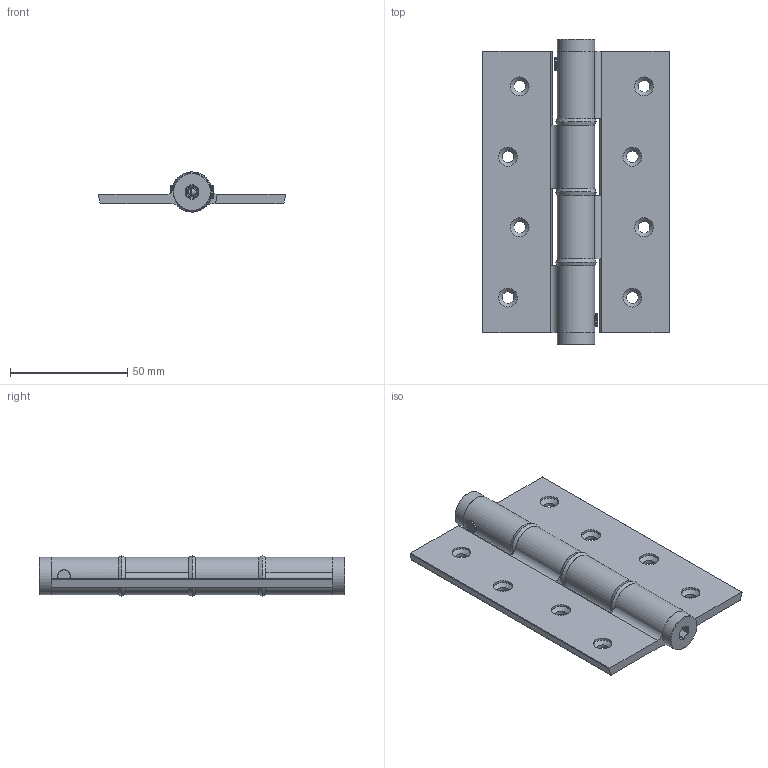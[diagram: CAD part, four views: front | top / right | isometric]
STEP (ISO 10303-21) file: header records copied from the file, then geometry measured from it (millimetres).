
FILE_DESCRIPTION(/* description */ ('Unknown'),/* implementation_level */ '2;1');
FILE_NAME(/* name */ '158.5314.01-03',/* time_stamp */ '2018-12-20T16:36:56+01:00',/* author */ ('Unknown'),/* organization */ ('Unknown'),/* preprocessor_version */ 'ST-DEVELOPER v16.7',/* originating_system */ 'DEX',/* authorisation */ $);
FILE_SCHEMA (('AUTOMOTIVE_DESIGN {1 0 10303 214 3 1 1}'));
Length unit declared in the file: millimetre
Products named in the file (5): 717.010.0.0 Conjunt Frontissa SA 120 ; 053.029.0.0 55303 Pala SA 120; 059.010.0.2 76305 Volandera nylon 16x12x3; 057.028.0.0 55719 Tap Frontissa -Foradat-; 057.020.0.2 Passador Frontisses 3 x 9.5
Assembly tree (9 placements, depth 2):
  717.010.0.0 Conjunt Frontissa SA 120 
    053.029.0.0 55303 Pala SA 120  x2
    059.010.0.2 76305 Volandera nylon 16x12x3  x3
    057.028.0.0 55719 Tap Frontissa -Foradat-  x2
    057.020.0.2 Passador Frontisses 3 x 9.5  x2
Bounding box: 80 x 130 x 17.11 mm (x, y, z)
Volume: 44276.4 mm3; surface area: 32238.4 mm2
Topology: 9 solids, 9 shells, 213 faces, 542 edges, 333 vertices
Faces by surface type: cylinder 95, plane 78, cone 28, sphere 8, torus 4
Full cylindrical faces by diameter (mm): 2.5 x2, 3 x2, 3.1 x14, 5 x8, 5.5 x2, 8 x8, 11.6 x2, 12 x2, 12.05 x4, 12.361 x3, 16 x2
Entity records: 3106 total; most frequent: CARTESIAN_POINT 615, DIRECTION 514, ORIENTED_EDGE 420, AXIS2_PLACEMENT_3D 216, EDGE_CURVE 210, EDGE_LOOP 169, FACE_BOUND 169, VERTEX_POINT 151
